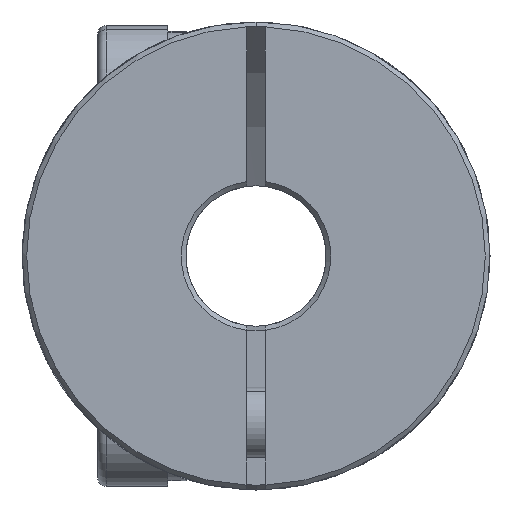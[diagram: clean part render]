
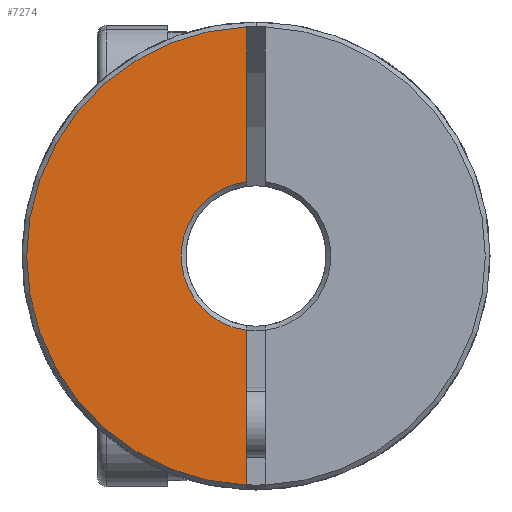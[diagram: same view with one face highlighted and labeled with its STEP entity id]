
A CAD part, front view. The second image highlights one B-rep face of the part: STEP entity #7274.
In plain terms, the highlighted planar face has unit normal (0, -1, 0).
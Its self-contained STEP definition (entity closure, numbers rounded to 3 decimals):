
#114 = DIRECTION ( 'NONE',  ( 0., 1., 0. ) ) ;
#723 = CARTESIAN_POINT ( 'NONE',  ( 0., -17.5, 0. ) ) ;
#1040 = CARTESIAN_POINT ( 'NONE',  ( -0.4, -17.5, 9.792 ) ) ;
#1089 = VERTEX_POINT ( 'NONE', #3316 ) ;
#1120 = DIRECTION ( 'NONE',  ( 0., 0., 1. ) ) ;
#1165 = VERTEX_POINT ( 'NONE', #1507 ) ;
#1221 = DIRECTION ( 'NONE',  ( 0., 0., -1. ) ) ;
#1230 = AXIS2_PLACEMENT_3D ( 'NONE', #5783, #2329, #1120 ) ;
#1427 = EDGE_CURVE ( 'NONE', #5013, #1089, #4309, .T. ) ;
#1507 = CARTESIAN_POINT ( 'NONE',  ( -0.4, -17.5, 3.175 ) ) ;
#1629 = EDGE_CURVE ( 'NONE', #7092, #1089, #1714, .T. ) ;
#1714 = LINE ( 'NONE', #6908, #5175 ) ;
#1796 = PLANE ( 'NONE',  #1230 ) ;
#2073 = CARTESIAN_POINT ( 'NONE',  ( 0., -17.5, 0. ) ) ;
#2215 = DIRECTION ( 'NONE',  ( 0., 0., -1. ) ) ;
#2329 = DIRECTION ( 'NONE',  ( 0., 1., 0. ) ) ;
#2492 = EDGE_CURVE ( 'NONE', #5013, #1165, #7224, .T. ) ;
#2519 = DIRECTION ( 'NONE',  ( 0., 0., 1. ) ) ;
#3029 = AXIS2_PLACEMENT_3D ( 'NONE', #2073, #6675, #4407 ) ;
#3202 = EDGE_LOOP ( 'NONE', ( #3660, #4632, #5269, #5106 ) ) ;
#3316 = CARTESIAN_POINT ( 'NONE',  ( -0.4, -17.5, -9.792 ) ) ;
#3660 = ORIENTED_EDGE ( 'NONE', *, *, #2492, .F. ) ;
#4063 = AXIS2_PLACEMENT_3D ( 'NONE', #723, #114, #2519 ) ;
#4309 = CIRCLE ( 'NONE', #3029, 9.8 ) ;
#4407 = DIRECTION ( 'NONE',  ( 0., 0., 1. ) ) ;
#4632 = ORIENTED_EDGE ( 'NONE', *, *, #1427, .T. ) ;
#4655 = EDGE_CURVE ( 'NONE', #7092, #1165, #5406, .T. ) ;
#4752 = CARTESIAN_POINT ( 'NONE',  ( -0.4, -17.5, 0. ) ) ;
#5013 = VERTEX_POINT ( 'NONE', #1040 ) ;
#5106 = ORIENTED_EDGE ( 'NONE', *, *, #4655, .T. ) ;
#5175 = VECTOR ( 'NONE', #2215, 1000. ) ;
#5269 = ORIENTED_EDGE ( 'NONE', *, *, #1629, .F. ) ;
#5406 = CIRCLE ( 'NONE', #4063, 3.2 ) ;
#5783 = CARTESIAN_POINT ( 'NONE',  ( 0., -17.5, 0. ) ) ;
#5872 = VECTOR ( 'NONE', #1221, 1000. ) ;
#6084 = FACE_OUTER_BOUND ( 'NONE', #3202, .T. ) ;
#6675 = DIRECTION ( 'NONE',  ( 0., -1., 0. ) ) ;
#6908 = CARTESIAN_POINT ( 'NONE',  ( -0.4, -17.5, 0. ) ) ;
#7004 = CARTESIAN_POINT ( 'NONE',  ( -0.4, -17.5, -3.175 ) ) ;
#7092 = VERTEX_POINT ( 'NONE', #7004 ) ;
#7224 = LINE ( 'NONE', #4752, #5872 ) ;
#7274 = ADVANCED_FACE ( 'NONE', ( #6084 ), #1796, .F. ) ;
